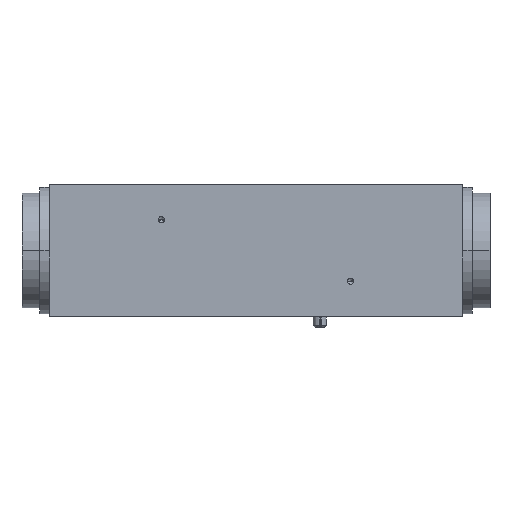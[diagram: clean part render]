
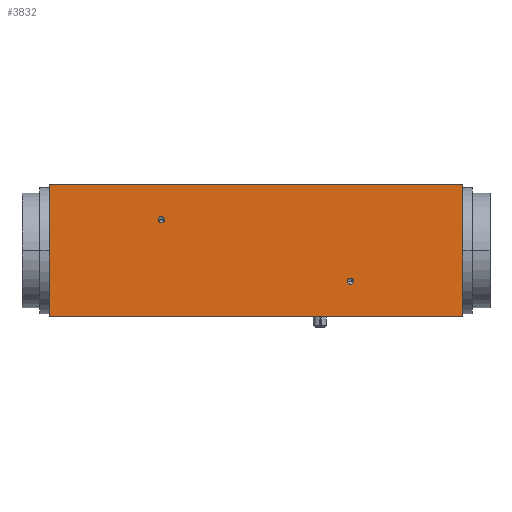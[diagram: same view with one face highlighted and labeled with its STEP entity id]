
A CAD part, top view. The second image highlights one B-rep face of the part: STEP entity #3832.
In plain terms, the highlighted planar face has unit normal (0, 0, 1).
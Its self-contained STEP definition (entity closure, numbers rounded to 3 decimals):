
#143 = CARTESIAN_POINT ( 'NONE',  ( 25.5, 7., 20. ) ) ;
#277 = CARTESIAN_POINT ( 'NONE',  ( 67.8, -7., 20. ) ) ;
#360 = DIRECTION ( 'NONE',  ( 1., 0., 0. ) ) ;
#395 = VERTEX_POINT ( 'NONE', #1146 ) ;
#469 = VERTEX_POINT ( 'NONE', #1766 ) ;
#865 = DIRECTION ( 'NONE',  ( 1., 0., 0. ) ) ;
#1042 = VERTEX_POINT ( 'NONE', #5813 ) ;
#1053 = ORIENTED_EDGE ( 'NONE', *, *, #7406, .F. ) ;
#1146 = CARTESIAN_POINT ( 'NONE',  ( 69.2, -7., 20. ) ) ;
#1611 = DIRECTION ( 'NONE',  ( -1., 0., 0. ) ) ;
#1634 = DIRECTION ( 'NONE',  ( 0., -1., 0. ) ) ;
#1712 = DIRECTION ( 'NONE',  ( 0., 0., 1. ) ) ;
#1766 = CARTESIAN_POINT ( 'NONE',  ( 94., 15., 20. ) ) ;
#1837 = CARTESIAN_POINT ( 'NONE',  ( 0., -15., 20. ) ) ;
#1911 = FACE_BOUND ( 'NONE', #5029, .T. ) ;
#1937 = AXIS2_PLACEMENT_3D ( 'NONE', #6317, #2273, #7021 ) ;
#2245 = PLANE ( 'NONE',  #1937 ) ;
#2256 = ORIENTED_EDGE ( 'NONE', *, *, #5427, .T. ) ;
#2273 = DIRECTION ( 'NONE',  ( 0., 0., -1. ) ) ;
#2498 = VERTEX_POINT ( 'NONE', #6865 ) ;
#2526 = DIRECTION ( 'NONE',  ( 0., -1., 0. ) ) ;
#2551 = CARTESIAN_POINT ( 'NONE',  ( 68.5, -7., 20. ) ) ;
#2615 = ORIENTED_EDGE ( 'NONE', *, *, #6521, .F. ) ;
#2688 = EDGE_LOOP ( 'NONE', ( #2256, #1053, #5611, #4668 ) ) ;
#2741 = CARTESIAN_POINT ( 'NONE',  ( 0., 15., 20. ) ) ;
#3072 = VERTEX_POINT ( 'NONE', #2741 ) ;
#3246 = DIRECTION ( 'NONE',  ( 1., 0., 0. ) ) ;
#3648 = CARTESIAN_POINT ( 'NONE',  ( 94., -15., 20. ) ) ;
#3832 = ADVANCED_FACE ( 'NONE', ( #6827, #1911, #6808 ), #2245, .F. ) ;
#3976 = CIRCLE ( 'NONE', #5985, 0.7 ) ;
#4604 = DIRECTION ( 'NONE',  ( 0., 0., 1. ) ) ;
#4668 = ORIENTED_EDGE ( 'NONE', *, *, #5831, .T. ) ;
#4719 = VECTOR ( 'NONE', #1611, 1000. ) ;
#4752 = LINE ( 'NONE', #5732, #4719 ) ;
#5029 = EDGE_LOOP ( 'NONE', ( #5515, #8031 ) ) ;
#5084 = DIRECTION ( 'NONE',  ( 0., 0., 1. ) ) ;
#5234 = ORIENTED_EDGE ( 'NONE', *, *, #5364, .F. ) ;
#5322 = EDGE_CURVE ( 'NONE', #395, #8166, #8827, .T. ) ;
#5364 = EDGE_CURVE ( 'NONE', #7484, #1042, #8570, .T. ) ;
#5427 = EDGE_CURVE ( 'NONE', #3072, #2498, #8427, .T. ) ;
#5515 = ORIENTED_EDGE ( 'NONE', *, *, #5322, .F. ) ;
#5601 = CARTESIAN_POINT ( 'NONE',  ( 94., 15., 20. ) ) ;
#5611 = ORIENTED_EDGE ( 'NONE', *, *, #6050, .F. ) ;
#5732 = CARTESIAN_POINT ( 'NONE',  ( 94., -15., 20. ) ) ;
#5813 = CARTESIAN_POINT ( 'NONE',  ( 24.8, 7., 20. ) ) ;
#5816 = CARTESIAN_POINT ( 'NONE',  ( 68.5, -7., 20. ) ) ;
#5831 = EDGE_CURVE ( 'NONE', #469, #3072, #7903, .T. ) ;
#5985 = AXIS2_PLACEMENT_3D ( 'NONE', #2551, #7319, #3246 ) ;
#6050 = EDGE_CURVE ( 'NONE', #469, #6461, #7682, .T. ) ;
#6210 = DIRECTION ( 'NONE',  ( -1., 0., 0. ) ) ;
#6317 = CARTESIAN_POINT ( 'NONE',  ( 94., -15., 20. ) ) ;
#6460 = DIRECTION ( 'NONE',  ( 1., 0., 0. ) ) ;
#6461 = VERTEX_POINT ( 'NONE', #3648 ) ;
#6521 = EDGE_CURVE ( 'NONE', #1042, #7484, #6747, .T. ) ;
#6747 = CIRCLE ( 'NONE', #6855, 0.7 ) ;
#6808 = FACE_OUTER_BOUND ( 'NONE', #2688, .T. ) ;
#6827 = FACE_BOUND ( 'NONE', #8668, .T. ) ;
#6855 = AXIS2_PLACEMENT_3D ( 'NONE', #143, #5084, #865 ) ;
#6865 = CARTESIAN_POINT ( 'NONE',  ( 0., -15., 20. ) ) ;
#7021 = DIRECTION ( 'NONE',  ( -1., 0., 0. ) ) ;
#7319 = DIRECTION ( 'NONE',  ( 0., 0., 1. ) ) ;
#7406 = EDGE_CURVE ( 'NONE', #6461, #2498, #4752, .T. ) ;
#7484 = VERTEX_POINT ( 'NONE', #7815 ) ;
#7492 = VECTOR ( 'NONE', #1634, 1000. ) ;
#7668 = EDGE_CURVE ( 'NONE', #8166, #395, #3976, .T. ) ;
#7682 = LINE ( 'NONE', #8411, #7492 ) ;
#7809 = AXIS2_PLACEMENT_3D ( 'NONE', #5816, #1712, #6460 ) ;
#7815 = CARTESIAN_POINT ( 'NONE',  ( 26.2, 7., 20. ) ) ;
#7830 = AXIS2_PLACEMENT_3D ( 'NONE', #8571, #4604, #360 ) ;
#7883 = VECTOR ( 'NONE', #6210, 1000. ) ;
#7903 = LINE ( 'NONE', #5601, #7883 ) ;
#8031 = ORIENTED_EDGE ( 'NONE', *, *, #7668, .F. ) ;
#8166 = VERTEX_POINT ( 'NONE', #277 ) ;
#8411 = CARTESIAN_POINT ( 'NONE',  ( 94., -15., 20. ) ) ;
#8419 = VECTOR ( 'NONE', #2526, 1000. ) ;
#8427 = LINE ( 'NONE', #1837, #8419 ) ;
#8570 = CIRCLE ( 'NONE', #7830, 0.7 ) ;
#8571 = CARTESIAN_POINT ( 'NONE',  ( 25.5, 7., 20. ) ) ;
#8668 = EDGE_LOOP ( 'NONE', ( #5234, #2615 ) ) ;
#8827 = CIRCLE ( 'NONE', #7809, 0.7 ) ;
